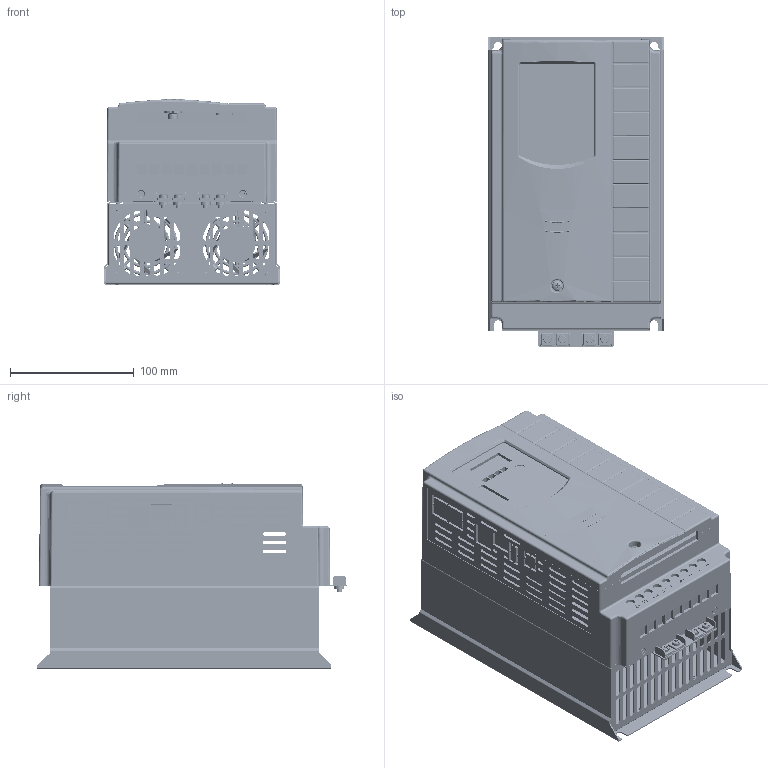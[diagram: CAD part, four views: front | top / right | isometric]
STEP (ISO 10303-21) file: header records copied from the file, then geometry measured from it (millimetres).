
FILE_DESCRIPTION((''),'2;1');
FILE_NAME('E4_ASM','2024-05-28T',('Lenovo'),(''),'CREO PARAMETRIC BY PTC INC, 2016130','CREO PARAMETRIC BY PTC INC, 2016130','');
FILE_SCHEMA(('AUTOMOTIVE_DESIGN { 1 0 10303 214 1 1 1 1 }'));
Products named in the file (52): 6025-01_1_1; FENGSHANZHAO_1_1; E4E01-X301_2_1_1; E4E01-X301_2_ASM_1_ASM; E4E01-X302_2_1_1; E4E01-X302_2_2_1; E4E01-X302_2_3_1; E4E01-X302_2_4_1; E4E01-X302_2_5_1; E4E01-X302_2_6_1; E4E01-X302_2_7_1; E4E01-X302_2_8_1; E4E01-X302_2_9_1; E4E01-X302_2_10_1; E4E01-X302_2_11_1; E4E01-X302_2_12_1; E4E01-X302_2_13_1; E4E01-X302_2_14_1; E4E01-X302_2_15_1; E4E01-X302_2_16_1; E4E01-X302_2_17_1; E4E01-X302_2_ASM_1_ASM; E4E01-X303_1_1_1; E4E01-X303_1_2_1; E4E01-X303_1_3_1; E4E01-X303_1_4_1; E4E01-X303_1_5_1; E4E01-X303_1_6_1; E4E01-X303_1_7_1; E4E01-X303_1_8_1; E4E01-X303_1_9_1; E4E01-X303_1_ASM_1_ASM; E4D03-X305_1_1; E4D03-X304__1_1; GB12617-90_3X7_30-R0_1_1; M4X35_1_1; SHANGGAI5_1_1_1; SHANGGAI5_1_2_1; SHANGGAI5_1_ASM_1_ASM; XIAOGAI5_1_1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
Assembly tree (90 placements, depth 5):
  E4_ASM
    E4_ASM_1_ASM
      E4-ZHUANGPEITI_ASM_79_ASM_1_ASM
        6025-01_1_1  x2
        FENGSHANZHAO_1_1  x2
        E4E01-X301_2_ASM_1_ASM
          E4E01-X301_2_1_1
        E4E01-X302_2_ASM_1_ASM
          E4E01-X302_2_1_1
          E4E01-X302_2_2_1
          E4E01-X302_2_3_1
          E4E01-X302_2_4_1
          E4E01-X302_2_5_1
          E4E01-X302_2_6_1
          E4E01-X302_2_7_1
          E4E01-X302_2_8_1
          E4E01-X302_2_9_1
          E4E01-X302_2_10_1
          E4E01-X302_2_11_1
          E4E01-X302_2_12_1
          E4E01-X302_2_13_1
          E4E01-X302_2_14_1
          E4E01-X302_2_15_1
          E4E01-X302_2_16_1
          E4E01-X302_2_17_1
        E4E01-X303_1_ASM_1_ASM
          E4E01-X303_1_1_1
          E4E01-X303_1_2_1
          E4E01-X303_1_3_1
          E4E01-X303_1_4_1
          E4E01-X303_1_5_1
          E4E01-X303_1_6_1
          E4E01-X303_1_7_1
          E4E01-X303_1_8_1
          E4E01-X303_1_9_1
        E4D03-X305_1_1  x2
        E4D03-X304__1_1
        GB12617-90_3X7_30-R0_1_1  x12
        M4X35_1_1  x8
        SHANGGAI5_1_ASM_1_ASM
          SHANGGAI5_1_1_1
          SHANGGAI5_1_2_1
        XIAOGAI5_1_1
        M4-JIEDI_1_1  x4
        JCJ-FJ_1_1  x2
        M4X10_1_1  x6
        GBT818_M3X10_1_1  x4
        GB9074_4-88_M3X10_1_1  x4
        M3X6_1_1  x4
        M4X12_1_1
        PRT0002_1_1
        PRT0003_1_1
Bounding box: 141.6 x 250 x 150.2 mm (x, y, z)
Volume: 1833008.7 mm3; surface area: 550148.9 mm2
Topology: 84 solids, 84 shells, 4940 faces, 13848 edges, 9046 vertices
Faces by surface type: plane 2430, cylinder 1462, bspline 379, torus 223, extrusion 208, cone 141, sphere 97
Entity records: 171337 total; most frequent: CARTESIAN_POINT 43804, ORIENTED_EDGE 20540, DIRECTION 17395, EDGE_CURVE 10270, PRESENTATION_STYLE_ASSIGNMENT 9945, STYLED_ITEM 9945, CURVE_STYLE 9459, VERTEX_POINT 6734
